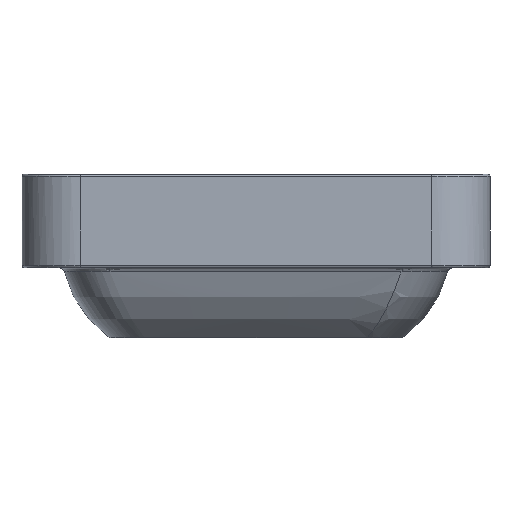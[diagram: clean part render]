
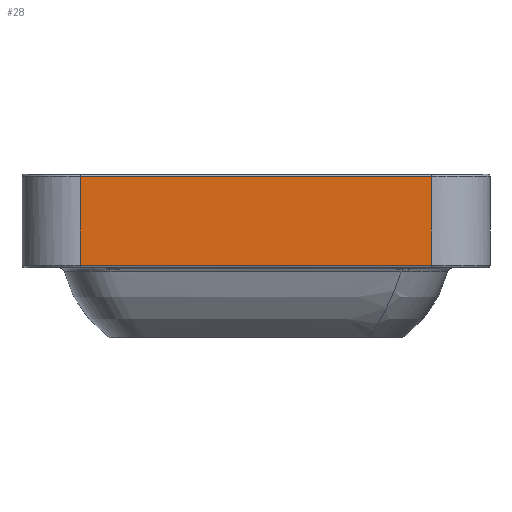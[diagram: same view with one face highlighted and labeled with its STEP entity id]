
A CAD part, left-side view. The second image highlights one B-rep face of the part: STEP entity #28.
In plain terms, the highlighted planar face has unit normal (-1, 0, 0).
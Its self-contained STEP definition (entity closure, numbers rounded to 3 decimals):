
#28=ADVANCED_FACE('',(#83),#935,.T.);
#83=FACE_OUTER_BOUND('',#138,.T.);
#138=EDGE_LOOP('',(#199,#200,#201,#202));
#199=ORIENTED_EDGE('',*,*,#507,.F.);
#200=ORIENTED_EDGE('',*,*,#508,.T.);
#201=ORIENTED_EDGE('',*,*,#503,.T.);
#202=ORIENTED_EDGE('',*,*,#509,.T.);
#503=EDGE_CURVE('',#812,#811,#699,.T.);
#507=EDGE_CURVE('',#816,#815,#701,.T.);
#508=EDGE_CURVE('',#816,#812,#702,.T.);
#509=EDGE_CURVE('',#811,#815,#703,.T.);
#699=B_SPLINE_CURVE_WITH_KNOTS('',1,(#15043,#15044),.UNSPECIFIED.,.F.,.F.,
(2,2),(0.,76.),.UNSPECIFIED.);
#701=B_SPLINE_CURVE_WITH_KNOTS('',1,(#15053,#15054),.UNSPECIFIED.,.F.,.F.,
(2,2),(0.,76.),.UNSPECIFIED.);
#702=B_SPLINE_CURVE_WITH_KNOTS('',1,(#15055,#15056),.UNSPECIFIED.,.F.,.F.,
(2,2),(0.,300.),.UNSPECIFIED.);
#703=B_SPLINE_CURVE_WITH_KNOTS('',1,(#15057,#15058),.UNSPECIFIED.,.F.,.F.,
(2,2),(0.,300.),.UNSPECIFIED.);
#811=VERTEX_POINT('',#14941);
#812=VERTEX_POINT('',#14942);
#815=VERTEX_POINT('',#14945);
#816=VERTEX_POINT('',#14946);
#935=PLANE('',#988);
#988=AXIS2_PLACEMENT_3D('',#1018,#998,$);
#998=DIRECTION('',(-1.,0.,0.));
#1018=CARTESIAN_POINT('',(-375.,165.,-81.8));
#14941=CARTESIAN_POINT('',(-375.,-150.,-2.));
#14942=CARTESIAN_POINT('',(-375.,-150.,-78.));
#14945=CARTESIAN_POINT('',(-375.,150.,-2.));
#14946=CARTESIAN_POINT('',(-375.,150.,-78.));
#15043=CARTESIAN_POINT('',(-375.,-150.,-78.));
#15044=CARTESIAN_POINT('',(-375.,-150.,-2.));
#15053=CARTESIAN_POINT('',(-375.,150.,-78.));
#15054=CARTESIAN_POINT('',(-375.,150.,-2.));
#15055=CARTESIAN_POINT('',(-375.,150.,-78.));
#15056=CARTESIAN_POINT('',(-375.,-150.,-78.));
#15057=CARTESIAN_POINT('',(-375.,-150.,-2.));
#15058=CARTESIAN_POINT('',(-375.,150.,-2.));
